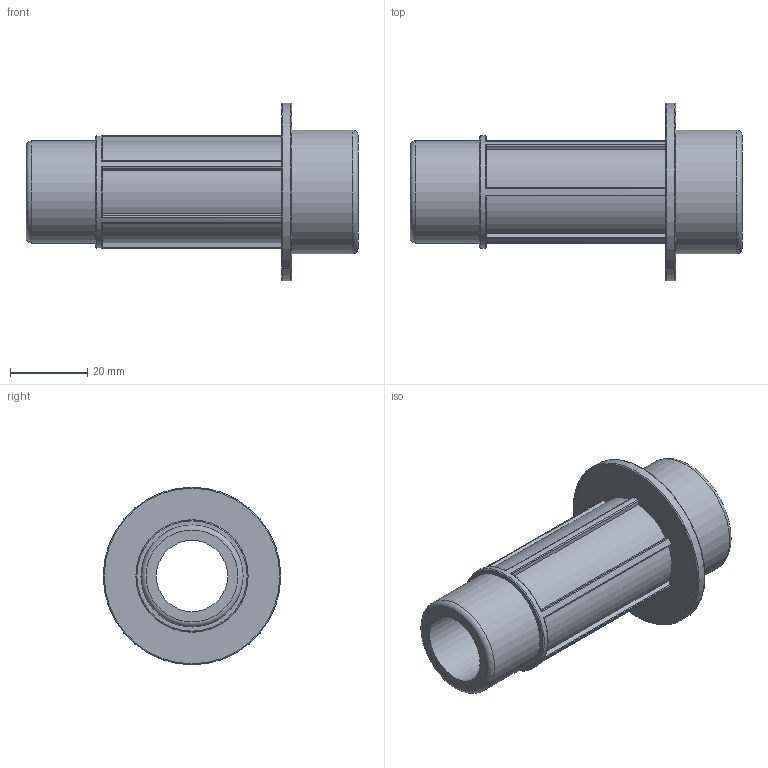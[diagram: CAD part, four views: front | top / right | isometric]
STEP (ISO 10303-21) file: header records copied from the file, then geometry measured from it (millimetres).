
FILE_DESCRIPTION(/* description */ ('PLASSON THREADED MALE ADAPTOR 32-3/4"'),/* implementation_level */ '2;1');
FILE_NAME(/* name */ 'C:\Dropbox\KIMPROJECTS-Inventor\99-16-3568-Processing\Silver+MF ISRAEL\078901\078901032007.ipt.stp',/* time_stamp */ '2018-04-09T13:01:54+03:00',/* author */ ('KIM'),/* organization */ (''),/* preprocessor_version */ 'ST-DEVELOPER v15.6',/* originating_system */ 'Autodesk Inventor 2015',/* authorisation */ '');
FILE_SCHEMA (('AUTOMOTIVE_DESIGN { 1 0 10303 214 3 1 1 }'));
Length unit declared in the file: millimetre
Products named in the file (1): 078901032007
Bounding box: 86 x 46 x 46 mm (x, y, z)
Volume: 32248.5 mm3; surface area: 16127.4 mm2
Topology: 1 solids, 1 shells, 57 faces, 151 edges, 99 vertices
Faces by surface type: cylinder 23, plane 23, torus 11
Full cylindrical faces by diameter (mm): 18.509 x1, 26.441 x1, 29.085 x1, 32 x1, 46 x1
Entity records: 1894 total; most frequent: CARTESIAN_POINT 488, DIRECTION 288, ORIENTED_EDGE 280, EDGE_CURVE 140, AXIS2_PLACEMENT_3D 114, VERTEX_POINT 98, EDGE_LOOP 72, LINE 60
